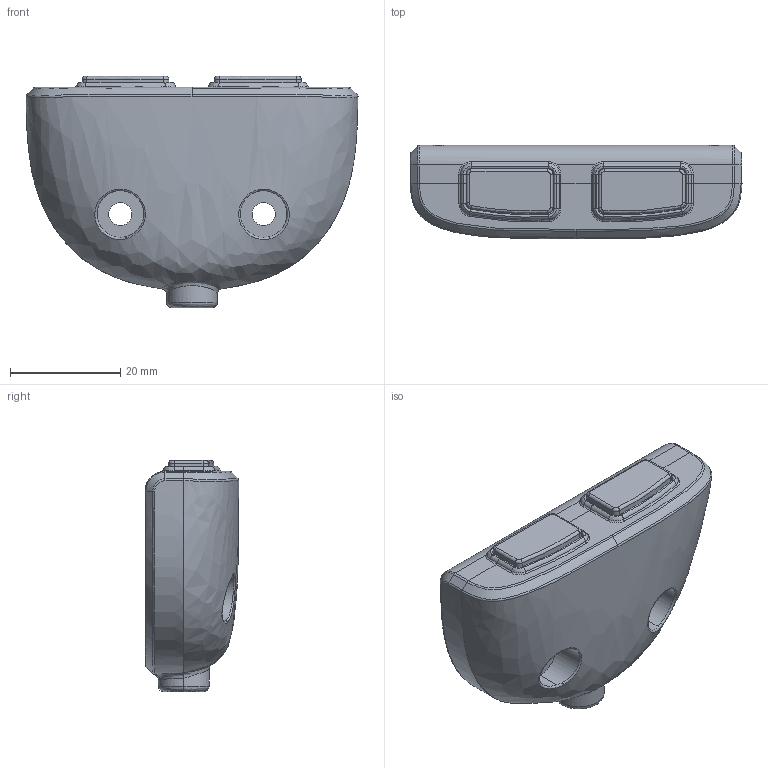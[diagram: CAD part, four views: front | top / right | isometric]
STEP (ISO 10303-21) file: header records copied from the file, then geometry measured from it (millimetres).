
FILE_DESCRIPTION (( 'STEP AP203' ), '1' );
FILE_NAME ('3D_TH14.STEP', '2014-03-04T05:52:32', ( '' ), ( '' ), 'SwSTEP 2.0', 'SolidWorks 2010', '' );
FILE_SCHEMA (( 'CONFIG_CONTROL_DESIGN' ));
Length unit declared in the file: millimetre
Products named in the file (1): 3D_TH14
Bounding box: 60.26 x 17 x 42 mm (x, y, z)
Surface area: 10631.8 mm2 (no closed solid volume)
Topology: 0 solids, 4 shells, 203 faces, 564 edges, 363 vertices
Faces by surface type: cylinder 91, bspline 80, plane 22, cone 10
Entity records: 18588 total; most frequent: CARTESIAN_POINT 13779, ORIENTED_EDGE 1045, DIRECTION 866, EDGE_CURVE 564, VERTEX_POINT 363, AXIS2_PLACEMENT_3D 345, EDGE_LOOP 225, CIRCLE 221
